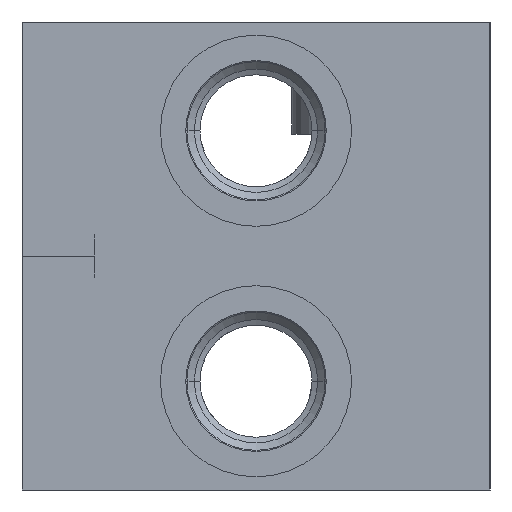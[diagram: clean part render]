
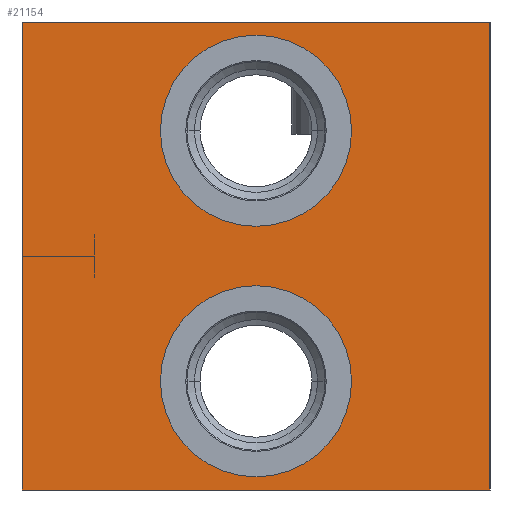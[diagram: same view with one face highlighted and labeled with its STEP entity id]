
A CAD part, left-side view. The second image highlights one B-rep face of the part: STEP entity #21154.
In plain terms, the highlighted planar face has unit normal (-1, 0, 0).
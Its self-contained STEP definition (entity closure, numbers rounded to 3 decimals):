
#26=DIRECTION('',(0.,-1.,0.));
#27=VECTOR('',#26,71.);
#28=CARTESIAN_POINT('',(0.,71.,0.));
#29=LINE('',#28,#27);
#399=DIRECTION('',(0.,0.,-1.));
#400=VECTOR('',#399,71.);
#401=CARTESIAN_POINT('',(0.,0.,0.));
#402=LINE('',#401,#400);
#2882=DIRECTION('',(0.,0.,-1.));
#2883=VECTOR('',#2882,71.);
#2884=CARTESIAN_POINT('',(0.,71.,0.));
#2885=LINE('',#2884,#2883);
#2889=CARTESIAN_POINT('',(0.,35.5,-54.5));
#2890=DIRECTION('',(1.,0.,0.));
#2891=DIRECTION('',(0.,-1.,0.));
#2892=AXIS2_PLACEMENT_3D('',#2889,#2890,#2891);
#2897=CARTESIAN_POINT('',(0.,35.5,-54.5));
#2898=DIRECTION('',(1.,0.,0.));
#2899=DIRECTION('',(0.,1.,0.));
#2900=AXIS2_PLACEMENT_3D('',#2897,#2898,#2899);
#2905=CARTESIAN_POINT('',(0.,35.5,-16.5));
#2906=DIRECTION('',(1.,0.,0.));
#2907=DIRECTION('',(0.,-1.,0.));
#2908=AXIS2_PLACEMENT_3D('',#2905,#2906,#2907);
#2913=CARTESIAN_POINT('',(0.,35.5,-16.5));
#2914=DIRECTION('',(1.,0.,0.));
#2915=DIRECTION('',(0.,1.,0.));
#2916=AXIS2_PLACEMENT_3D('',#2913,#2914,#2915);
#2942=DIRECTION('',(0.,-1.,0.));
#2943=VECTOR('',#2942,71.);
#2944=CARTESIAN_POINT('',(0.,71.,-71.));
#2945=LINE('',#2944,#2943);
#18794=CARTESIAN_POINT('',(0.,0.,0.));
#18796=VERTEX_POINT('',#18794);
#18800=CARTESIAN_POINT('',(0.,71.,0.));
#18801=VERTEX_POINT('',#18800);
#18802=CARTESIAN_POINT('',(0.,0.,-71.));
#18804=VERTEX_POINT('',#18802);
#18808=CARTESIAN_POINT('',(0.,71.,-71.));
#18809=VERTEX_POINT('',#18808);
#18866=CARTESIAN_POINT('',(0.,21.,-54.5));
#18867=CARTESIAN_POINT('',(0.,50.,-54.5));
#18868=VERTEX_POINT('',#18866);
#18869=VERTEX_POINT('',#18867);
#18886=CARTESIAN_POINT('',(0.,21.,-16.5));
#18887=CARTESIAN_POINT('',(0.,50.,-16.5));
#18888=VERTEX_POINT('',#18886);
#18889=VERTEX_POINT('',#18887);
#21130=CARTESIAN_POINT('',(0.,71.,0.));
#21131=DIRECTION('',(-1.,0.,0.));
#21132=DIRECTION('',(0.,-1.,0.));
#21133=AXIS2_PLACEMENT_3D('',#21130,#21131,#21132);
#21134=PLANE('',#21133);
#21135=ORIENTED_EDGE('',*,*,#20400,.T.);
#21136=ORIENTED_EDGE('',*,*,#20563,.T.);
#21138=ORIENTED_EDGE('',*,*,#21137,.F.);
#21139=ORIENTED_EDGE('',*,*,#20660,.F.);
#21140=EDGE_LOOP('',(#21135,#21136,#21138,#21139));
#21141=FACE_OUTER_BOUND('',#21140,.F.);
#21143=ORIENTED_EDGE('',*,*,#21142,.F.);
#21145=ORIENTED_EDGE('',*,*,#21144,.F.);
#21146=EDGE_LOOP('',(#21143,#21145));
#21147=FACE_BOUND('',#21146,.F.);
#21149=ORIENTED_EDGE('',*,*,#21148,.F.);
#21151=ORIENTED_EDGE('',*,*,#21150,.F.);
#21152=EDGE_LOOP('',(#21149,#21151));
#21153=FACE_BOUND('',#21152,.F.);
#2893=CIRCLE('',#2892,14.5);
#2901=CIRCLE('',#2900,14.5);
#2909=CIRCLE('',#2908,14.5);
#2917=CIRCLE('',#2916,14.5);
#20400=EDGE_CURVE('',#18801,#18796,#29,.T.);
#20563=EDGE_CURVE('',#18796,#18804,#402,.T.);
#20660=EDGE_CURVE('',#18801,#18809,#2885,.T.);
#21137=EDGE_CURVE('',#18809,#18804,#2945,.T.);
#21142=EDGE_CURVE('',#18868,#18869,#2893,.T.);
#21144=EDGE_CURVE('',#18869,#18868,#2901,.T.);
#21148=EDGE_CURVE('',#18888,#18889,#2909,.T.);
#21150=EDGE_CURVE('',#18889,#18888,#2917,.T.);
#21154=ADVANCED_FACE('',(#21141,#21147,#21153),#21134,.T.);
